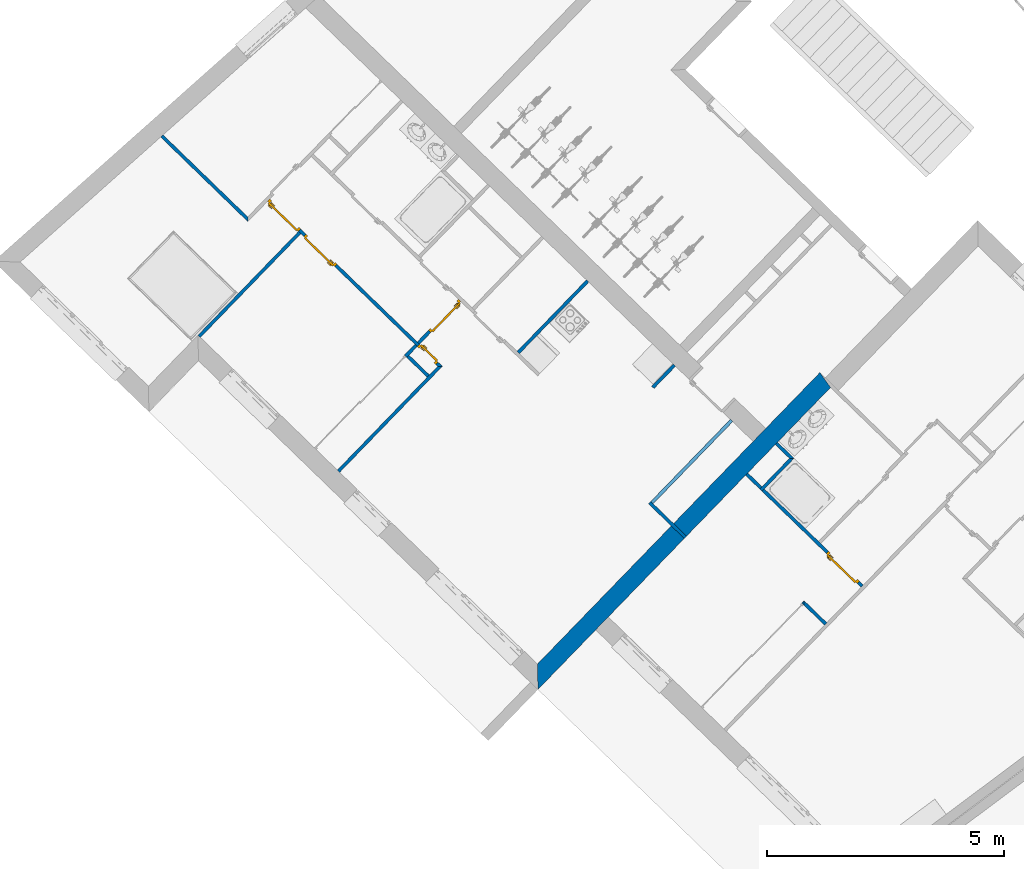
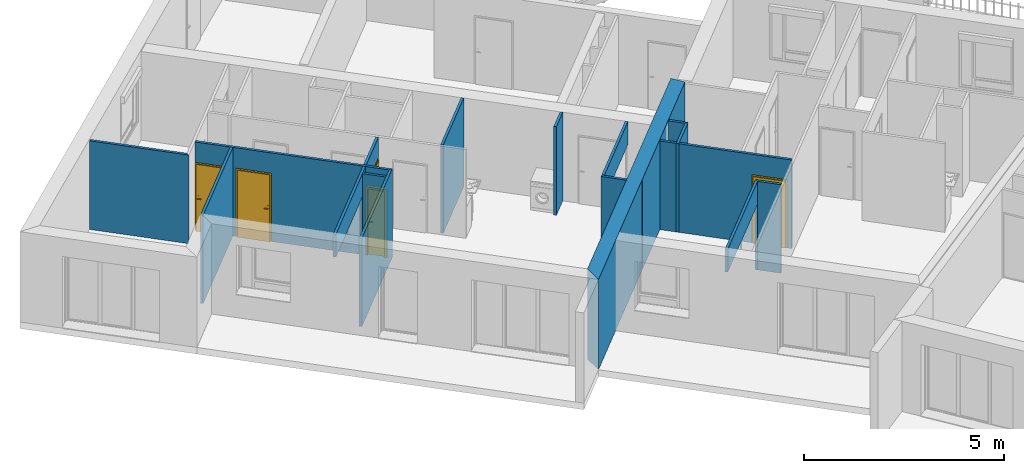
# One storey, part 18 of 195: 17 walls, 5 doors, 8 openings.
"""IFC2X3 building model written with IfcOpenShell, lengths in metres."""

import ifcopenshell
import ifcopenshell.guid

model = None  # the IFC model being written
_history = None  # IfcOwnerHistory: only IFC2X3 demands one
_inside = {}  # id of a spatial element -> (the spatial element, [elements in it])
_under = {}  # id of a project, library or spatial element -> (it, [spatial elements below it])
_declared = {}  # id of a project -> (the project, [libraries it declares])
_typed = {}  # id of a type object -> (the type object, [elements of that type])
_made_of = {}  # id of a material, layer set ... -> (it, [elements and type objects made of it])


def new_model(schema):
    """Start an empty IFC model of exactly this schema.

    Asked for "IFC4X3", IfcOpenShell would pick the latest addendum, in which some entities
    have other attributes; the version numbers below select the first issue.
    IFC2X3 requires an IfcOwnerHistory on every rooted entity: one is made here for all.
    """
    global model, _history
    if schema == "IFC4X3":
        model = ifcopenshell.file(schema_version=(4, 3, 0, 0))
    else:
        model = ifcopenshell.file(schema=schema)
    _inside.clear()
    _under.clear()
    _declared.clear()
    _typed.clear()
    _made_of.clear()
    _history = None
    if model.schema == "IFC2X3":
        org = make("IfcOrganization", Name="unknown")
        user = make(
            "IfcPersonAndOrganization",
            ThePerson=make("IfcPerson", FamilyName="unknown"),
            TheOrganization=org,
        )
        app = make(
            "IfcApplication",
            ApplicationDeveloper=org,
            Version="unknown",
            ApplicationFullName="unknown",
            ApplicationIdentifier="unknown",
        )
        _history = make(
            "IfcOwnerHistory",
            OwningUser=user,
            OwningApplication=app,
            ChangeAction="ADDED",
            CreationDate=0,
        )
    return model


def make(cls, **values):
    """One entity of the class cls with the attributes given. An attribute that is None is left unset."""
    return model.create_entity(
        cls, **{name: value for name, value in values.items() if value is not None}
    )


def entity(cls, *values):
    """Any entity or typed value of the class cls, its attributes in the order of the schema. None: left unset."""
    e = model.create_entity(cls)
    for i, value in enumerate(values):
        if value is not None:
            e[i] = value
    return e


def rooted(cls, **values):
    """An entity with a GlobalId (a new one), such as an element, a storey or a relation."""
    return make(cls, GlobalId=ifcopenshell.guid.new(), OwnerHistory=_history, **values)


def si_unit(unit_type, name, prefix=None):
    """IfcSIUnit, for example si_unit("LENGTHUNIT", "METRE", prefix="MILLI")."""
    return make("IfcSIUnit", UnitType=unit_type, Prefix=prefix, Name=name)


def converted_unit(unit_type, name, factor, base, dimensions=None, offset=None):
    """IfcConversionBasedUnit, such as the inch: factor (a typed value) times the base unit."""
    return make(
        "IfcConversionBasedUnit"
        if offset is None
        else "IfcConversionBasedUnitWithOffset",
        ConversionOffset=offset,
        Dimensions=None
        if dimensions is None
        else entity("IfcDimensionalExponents", *dimensions),
        UnitType=unit_type,
        Name=name,
        ConversionFactor=make(
            "IfcMeasureWithUnit", ValueComponent=factor, UnitComponent=base
        ),
    )


def derived_unit(unit_type, elements):
    """IfcDerivedUnit: a product of units, each with its exponent."""
    return make(
        "IfcDerivedUnit",
        Elements=[
            make("IfcDerivedUnitElement", Unit=unit, Exponent=power)
            for unit, power in elements
        ],
        UnitType=unit_type,
    )


def money_unit(currency):
    """IfcMonetaryUnit."""
    return make("IfcMonetaryUnit", Currency=currency)


def assignment(units):
    """IfcUnitAssignment: the units of a project."""
    return None if units is None else make("IfcUnitAssignment", Units=units)


def point(xyz):
    """IfcCartesianPoint."""
    return None if xyz is None else make("IfcCartesianPoint", Coordinates=xyz)


def direction(xyz):
    """IfcDirection."""
    return None if xyz is None else make("IfcDirection", DirectionRatios=xyz)


def frame(location, z_axis=None, x_axis=None):
    """IfcAxis2Placement3D, a coordinate frame: its origin and axes. An axis left out is left unset."""
    return make(
        "IfcAxis2Placement3D",
        Location=point(location),
        Axis=direction(z_axis),
        RefDirection=direction(x_axis),
    )


def frame_2d(location, x_axis=None):
    """IfcAxis2Placement2D, a coordinate frame in the plane: its origin and x axis."""
    return make(
        "IfcAxis2Placement2D", Location=point(location), RefDirection=direction(x_axis)
    )


def origin_with_axes():
    """The frame at (0, 0, 0) with the z axis (0, 0, 1) and the x axis (1, 0, 0) written out."""
    return frame((0.0, 0.0, 0.0), z_axis=(0.0, 0.0, 1.0), x_axis=(1.0, 0.0, 0.0))


def origin_2d_with_axis():
    """The frame at (0, 0) in the plane with the x axis (1, 0) written out."""
    return frame_2d((0.0, 0.0), x_axis=(1.0, 0.0))


def place(relative_to, where):
    """IfcLocalPlacement: puts the frame where relative to a parent placement (None: the world)."""
    return make(
        "IfcLocalPlacement", PlacementRelTo=relative_to, RelativePlacement=where
    )


def context(
    kind, dimensions, precision=None, world=None, true_north=None, identifier=None
):
    """IfcGeometricRepresentationContext, for example the 3D "Model" context."""
    return make(
        "IfcGeometricRepresentationContext",
        ContextIdentifier=identifier,
        ContextType=kind,
        CoordinateSpaceDimension=dimensions,
        Precision=precision,
        WorldCoordinateSystem=world,
        TrueNorth=true_north,
    )


def subcontext(parent, identifier, kind, view, scale=None):
    """IfcGeometricRepresentationSubContext, for example "Body" below "Model"."""
    return make(
        "IfcGeometricRepresentationSubContext",
        ContextIdentifier=identifier,
        ContextType=kind,
        ParentContext=parent,
        TargetScale=scale,
        TargetView=view,
    )


def project(units=None, contexts=None):
    """IfcProject with its units and contexts."""
    return rooted(
        "IfcProject",
        Name="project",
        RepresentationContexts=contexts,
        UnitsInContext=assignment(units),
    )


def spatial(cls, under=None, at=None, **own):
    """A site, building, storey or space (cls), placed at a placement, below another one or the project."""
    s = rooted(cls, ObjectPlacement=at, **own)
    if under is not None:
        _under.setdefault(under.id(), (under, []))[1].append(s)
    return s


def polyline(points):
    """IfcPolyline through the points."""
    return make("IfcPolyline", Points=[point(p) for p in points])


def profile(cls, at=None, kind="AREA", **sizes):
    """A parametric profile (cls). Its sizes go by their IFC names, for example OverallWidth=200.0."""
    return make(cls, ProfileType=kind, Position=at, **sizes)


def rectangle(**sizes):
    """IfcRectangleProfileDef."""
    return profile("IfcRectangleProfileDef", **sizes)


def outline(outer, holes=None, kind="AREA"):
    """IfcArbitraryClosedProfileDef: a profile drawn as a closed curve; with holes, ...WithVoids."""
    if holes is None:
        return make("IfcArbitraryClosedProfileDef", ProfileType=kind, OuterCurve=outer)
    return make(
        "IfcArbitraryProfileDefWithVoids",
        ProfileType=kind,
        OuterCurve=outer,
        InnerCurves=holes,
    )


def extrude(swept, where, along, depth):
    """IfcExtrudedAreaSolid: the profile swept, set in the frame where, extruded along a direction by depth."""
    return make(
        "IfcExtrudedAreaSolid",
        SweptArea=swept,
        Position=where,
        ExtrudedDirection=direction(along),
        Depth=depth,
    )


def faces_of(points, faces, orient=None, outer=None):
    """IfcFace entities. A face is a list of loops; a loop is a list of indices into points, from 0.

    orient and outer hold one flag for each loop. By default every Orientation is true, the
    first loop of a face is its IfcFaceOuterBound and the others are IfcFaceBound.
    """
    made = []
    for i, loops in enumerate(faces):
        bounds = []
        for j, loop in enumerate(loops):
            is_outer = j == 0 if outer is None else outer[i][j]
            bounds.append(
                make(
                    "IfcFaceOuterBound" if is_outer else "IfcFaceBound",
                    Bound=make("IfcPolyLoop", Polygon=[points[k] for k in loop]),
                    Orientation=True if orient is None else orient[i][j],
                )
            )
        made.append(make("IfcFace", Bounds=bounds))
    return made


def faceted_brep(points, faces, orient=None, outer=None, voids=None):
    """IfcFacetedBrep: a solid bounded by flat faces; with voids (closed shells), ...WithVoids."""
    shared = [point(p) for p in points]
    hull = make("IfcClosedShell", CfsFaces=faces_of(shared, faces, orient, outer))
    if voids is None:
        return make("IfcFacetedBrep", Outer=hull)
    return make(
        "IfcFacetedBrepWithVoids",
        Outer=hull,
        Voids=[
            make(cls, CfsFaces=faces_of(shared, fs, o, b)) for cls, fs, o, b in voids
        ],
    )


def shape(context_of_items, identifier, shape_type, items):
    """IfcShapeRepresentation: the items that make up one representation, for example the "Body"."""
    return make(
        "IfcShapeRepresentation",
        ContextOfItems=context_of_items,
        RepresentationIdentifier=identifier,
        RepresentationType=shape_type,
        Items=items,
    )


def source(mapping_origin, context_of_items, identifier, shape_type, items):
    """IfcRepresentationMap: a shape defined once, which mapped items show again and again."""
    return make(
        "IfcRepresentationMap",
        MappingOrigin=mapping_origin,
        MappedRepresentation=shape(context_of_items, identifier, shape_type, items),
    )


def transform(
    local_origin,
    x_axis=None,
    y_axis=None,
    z_axis=None,
    scale=None,
    scale2=None,
    scale3=None,
    uniform=True,
):
    """IfcCartesianTransformationOperator3D, or its non-uniform kind. x_axis, y_axis, z_axis: its Axis1, 2, 3."""
    if uniform:
        return make(
            "IfcCartesianTransformationOperator3D",
            Axis1=direction(x_axis),
            Axis2=direction(y_axis),
            LocalOrigin=point(local_origin),
            Scale=scale,
            Axis3=direction(z_axis),
        )
    return make(
        "IfcCartesianTransformationOperator3DnonUniform",
        Axis1=direction(x_axis),
        Axis2=direction(y_axis),
        LocalOrigin=point(local_origin),
        Scale=scale,
        Axis3=direction(z_axis),
        Scale2=scale2,
        Scale3=scale3,
    )


def mapped(mapping_source, mapping_target):
    """IfcMappedItem: shows the shape of a source again, moved by a transform."""
    return make(
        "IfcMappedItem", MappingSource=mapping_source, MappingTarget=mapping_target
    )


def material(Name=None, Category=None):
    """IfcMaterial."""
    return make("IfcMaterial", Name=Name, Category=Category)


def layer(
    of_material, thickness, ventilated=None, Name=None, Category=None, Priority=None
):
    """IfcMaterialLayer: one layer of a wall or slab, of a material (None: an air gap)."""
    return make(
        "IfcMaterialLayer",
        Material=of_material,
        LayerThickness=thickness,
        IsVentilated=ventilated,
        Name=Name,
        Category=Category,
        Priority=Priority,
    )


def layer_set(layers, Name=None):
    """IfcMaterialLayerSet."""
    return make("IfcMaterialLayerSet", MaterialLayers=layers, LayerSetName=Name)


def layer_usage(for_layer_set, set_direction, sense, offset, extent=None):
    """IfcMaterialLayerSetUsage: how a layer set lies in its element."""
    return make(
        "IfcMaterialLayerSetUsage",
        ForLayerSet=for_layer_set,
        LayerSetDirection=set_direction,
        DirectionSense=sense,
        OffsetFromReferenceLine=offset,
        ReferenceExtent=extent,
    )


def made_of(thing, what):
    """Note that an element or type object is made of a material, layer set ...; save() writes the relation."""
    if what is not None:
        _made_of.setdefault(what.id(), (what, []))[1].append(thing)
    return thing


def type_object(cls, material=None, **own):
    """A type object (cls), such as IfcWallType, which elements share."""
    return made_of(rooted(cls, **own), material)


def element(
    cls,
    number,
    at=None,
    inside=None,
    cuts=None,
    type_object=None,
    material=None,
    context=None,
    identifier="Body",
    shape_type=None,
    held_by="IfcProductDefinitionShape",
    body=None,
    shapes=None,
    **own,
):
    """One element of the class cls, such as IfcWall. Its Tag is "e" and its number.

    at: its placement. inside: the storey or other place that contains it. cuts: it is an
    opening in that element (IfcRelVoidsElement). A single representation is given by context,
    identifier, shape_type and body (its items); several are given by shapes. held_by: the class
    of the entity that holds the representations. save() writes the other relations.
    """
    e = rooted(cls, Tag="e%d" % number, ObjectPlacement=at, **own)
    if body is not None:
        shapes = [shape(context, identifier, shape_type, body)]
    if shapes is not None:
        e.Representation = make(held_by, Representations=shapes)
    if inside is not None:
        _inside.setdefault(inside.id(), (inside, []))[1].append(e)
    if cuts is not None:
        rooted(
            "IfcRelVoidsElement", RelatingBuildingElement=cuts, RelatedOpeningElement=e
        )
    if type_object is not None:
        _typed.setdefault(type_object.id(), (type_object, []))[1].append(e)
    return made_of(e, material)


def fill(opening, filler):
    """IfcRelFillsElement: the door or window that sits in an opening."""
    return rooted(
        "IfcRelFillsElement",
        RelatingOpeningElement=opening,
        RelatedBuildingElement=filler,
    )


def aggregate(whole, parts):
    """IfcRelAggregates: a whole, such as a stair, and the parts it consists of."""
    return rooted("IfcRelAggregates", RelatingObject=whole, RelatedObjects=parts)


def save(model, path):
    """Write the relations noted so far, then the file.

    IfcRelAggregates (storeys below a building ...), IfcRelContainedInSpatialStructure (elements
    in a storey), IfcRelDefinesByType, IfcRelAssociatesMaterial and IfcRelDeclares: one each for
    every whole, place, type object, material and project.
    """
    for whole, parts in _under.values():
        aggregate(whole, parts)
    for where, things in _inside.values():
        rooted(
            "IfcRelContainedInSpatialStructure",
            RelatedElements=things,
            RelatingStructure=where,
        )
    for kind, things in _typed.values():
        rooted("IfcRelDefinesByType", RelatedObjects=things, RelatingType=kind)
    for what, things in _made_of.values():
        rooted("IfcRelAssociatesMaterial", RelatedObjects=things, RelatingMaterial=what)
    for by, libraries in _declared.values():
        rooted("IfcRelDeclares", RelatingContext=by, RelatedDefinitions=libraries)
    model.write(path)


model = new_model("IFC2X3")

# Units and contexts
model_context = context("Model", 3, precision=1e-05, world=origin_with_axes(), true_north=direction((0.0, 1.0)))
body_context = subcontext(model_context, "Body", "Model", "MODEL_VIEW")
ifc_project = project(units=[si_unit("LENGTHUNIT", "METRE"), si_unit("AREAUNIT", "SQUARE_METRE"), si_unit("VOLUMEUNIT", "CUBIC_METRE"), converted_unit("PLANEANGLEUNIT", "DEGREE", entity("IfcPlaneAngleMeasure", 0.0174532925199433), si_unit("PLANEANGLEUNIT", "RADIAN"), dimensions=[0, 0, 0, 0, 0, 0, 0]), money_unit("CHF"), converted_unit("TIMEUNIT", "Year", entity("IfcTimeMeasure", 31557600.0), si_unit("TIMEUNIT", "SECOND"), dimensions=[0, 0, 1, 0, 0, 0, 0]), si_unit("MASSUNIT", "GRAM", prefix="KILO"), si_unit("THERMODYNAMICTEMPERATUREUNIT", "DEGREE_CELSIUS"), si_unit("LUMINOUSINTENSITYUNIT", "LUMEN"), si_unit("ENERGYUNIT", "JOULE", prefix="MEGA"), derived_unit("THERMALCONDUCTANCEUNIT", [(si_unit("POWERUNIT", "WATT"), 1), (si_unit("LENGTHUNIT", "METRE"), -1), (si_unit("THERMODYNAMICTEMPERATUREUNIT", "KELVIN"), -1)]), derived_unit("SPECIFICHEATCAPACITYUNIT", [(si_unit("ENERGYUNIT", "JOULE"), 1), (si_unit("MASSUNIT", "GRAM", prefix="KILO"), -1), (si_unit("THERMODYNAMICTEMPERATUREUNIT", "KELVIN"), -1)]), derived_unit("MASSDENSITYUNIT", [(si_unit("MASSUNIT", "GRAM", prefix="KILO"), 1), (si_unit("VOLUMEUNIT", "CUBIC_METRE"), -1)])], contexts=[model_context])

# Site, building, storey
site_placement = place(None, origin_with_axes())
site = spatial("IfcSite", under=ifc_project, at=site_placement, Name="Site", CompositionType="ELEMENT")
building_placement = place(site_placement, origin_with_axes())
building = spatial("IfcBuilding", under=site, at=building_placement, Name="Bâtiment", CompositionType="ELEMENT")
storey_placement = place(building_placement, origin_with_axes())
storey = spatial("IfcBuildingStorey", under=building, at=storey_placement, Name="rdc", CompositionType="ELEMENT", Elevation=0.0)

# Walls
ifc_material_1 = material(Name="Hachure solide 268963992")
ifc_layer_1 = layer(ifc_material_1, 0.07, ventilated="UNKNOWN")
ifc_layer_set_1 = layer_set([ifc_layer_1], Name="Cloison 70 0826278243")
ifc_layer_usage_1 = layer_usage(ifc_layer_set_1, "AXIS2", "NEGATIVE", 0.0)
wall_type_1 = type_object("IfcWallType", Name="Cloison 70 0826278243 70", PredefinedType="NOTDEFINED")
wall_1_placement = place(storey_placement, frame((9525.8076536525, -1068.257932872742, 57.7), z_axis=(0.0, 0.0, 1.0), x_axis=(-0.7181763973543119, 0.6958610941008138, 0.0)))
element("IfcWallStandardCase", 1, at=wall_1_placement, inside=storey, type_object=wall_type_1, material=ifc_layer_usage_1, Name="Mur-149", context=body_context, shape_type="SweptSolid", body=[
    extrude(outline(polyline([(0.0, -0.06999999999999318), (1.049638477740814, -0.07000000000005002), (1.049638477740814, 0.0), (0.0, 0.0), (0.0, -0.06999999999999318)])), origin_with_axes(), (0.0, 0.0, 1.0), 2.7),
])
ifc_layer_usage_2 = layer_usage(ifc_layer_set_1, "AXIS2", "NEGATIVE", 0.0)
wall_2_placement = place(storey_placement, frame((9514.553407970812, -1059.488692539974, 57.7), z_axis=(0.0, 0.0, 1.0), x_axis=(0.7181763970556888, -0.6958610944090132, 0.0)))
element("IfcWallStandardCase", 2, at=wall_2_placement, inside=storey, type_object=wall_type_1, material=ifc_layer_usage_2, Name="Mur-149", context=body_context, shape_type="SweptSolid", body=[
    extrude(outline(polyline([(0.3758528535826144, -0.06999999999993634), (2.936374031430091, -0.06999999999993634), (2.866374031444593, 0.0), (0.3810431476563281, 0.0), (0.3758528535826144, -0.06999999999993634)])), origin_with_axes(), (0.0, 0.0, 1.0), 2.7),
])

# Wall, opening
ifc_layer_usage_3 = layer_usage(ifc_layer_set_1, "AXIS2", "NEGATIVE", 0.0)
wall_3_placement = place(storey_placement, frame((9527.093406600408, -1065.523140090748, 57.7), z_axis=(0.0, 0.0, 1.0), x_axis=(-0.6958610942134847, -0.7181763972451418, 0.0)))
wall_3 = element("IfcWallStandardCase", 3, at=wall_3_placement, inside=storey, type_object=wall_type_1, material=ifc_layer_usage_3, Name="Mur-149", context=body_context, shape_type="SweptSolid", body=[
    extrude(outline(polyline([(0.3799999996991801, -0.06999999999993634), (2.788769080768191, -0.06999999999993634), (2.788769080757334, 0.0), (0.3799999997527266, 0.0), (0.3799999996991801, -0.06999999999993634)])), origin_with_axes(), (0.0, 0.0, 1.0), 2.7),
])
opening_1_placement = place(wall_3_placement, frame((1.584384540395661, 0.0, 0.0), z_axis=(0.0, 0.0, 1.0), x_axis=(1.0, 0.0, 0.0)))
element("IfcOpeningElement", 4, at=opening_1_placement, cuts=wall_3, Name="Por-338", context=body_context, shape_type="SweptSolid", body=[
    extrude(rectangle(XDim=2.408769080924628, YDim=2.0, at=origin_2d_with_axis()), frame((0.0, -0.07000000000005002, 1.0), z_axis=(0.0, 1.0, 0.0), x_axis=(1.0, 0.0, 0.0)), (0.0, 0.0, -1.0), 0.07),
    extrude(rectangle(XDim=2.408769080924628, YDim=2.0, at=origin_2d_with_axis()), frame((0.0, -0.07000000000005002, 1.0), z_axis=(0.0, -1.0, 0.0), x_axis=(1.0, 0.0, 0.0)), (0.0, 0.0, -1.0), 0.07),
])

# Walls
ifc_layer_usage_4 = layer_usage(ifc_layer_set_1, "AXIS2", "NEGATIVE", 0.0)
wall_4_placement = place(storey_placement, frame((9525.889556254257, -1064.356695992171, 57.7), z_axis=(0.0, 0.0, 1.0), x_axis=(-0.6958610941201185, -0.7181763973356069, 0.0)))
element("IfcWallStandardCase", 5, at=wall_4_placement, inside=storey, type_object=wall_type_1, material=ifc_layer_usage_4, Name="Mur-149", context=body_context, shape_type="SweptSolid", body=[
    extrude(outline(polyline([(0.3799999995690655, -0.07000000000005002), (1.032137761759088, -0.07000000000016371), (1.032137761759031, 0.0), (0.3799999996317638, 0.0), (0.3799999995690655, -0.07000000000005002)])), origin_with_axes(), (0.0, 0.0, 1.0), 2.7),
])
ifc_layer_usage_5 = layer_usage(ifc_layer_set_1, "AXIS2", "POSITIVE", 0.0)
wall_5_placement = place(storey_placement, frame((9520.662566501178, -1064.581585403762, 57.7), z_axis=(0.0, 0.0, 1.0), x_axis=(-0.6958610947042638, -0.7181763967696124, 0.0)))
element("IfcWallStandardCase", 6, at=wall_5_placement, inside=storey, type_object=wall_type_1, material=ifc_layer_usage_5, Name="Mur-149", context=body_context, shape_type="SweptSolid", body=[
    extrude(outline(polyline([(0.0699999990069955, 0.0), (3.111145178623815, 0.0), (3.111145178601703, 0.07000000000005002), (-1.013859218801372e-09, 0.06999999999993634), (0.0699999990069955, 0.0)])), origin_with_axes(), (0.0, 0.0, 1.0), 2.7),
])

# Wall, openings, doors
ifc_layer_usage_6 = layer_usage(ifc_layer_set_1, "AXIS2", "NEGATIVE", 0.0)
wall_6_placement = place(storey_placement, frame((9517.075257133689, -1061.105741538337, 57.7), z_axis=(0.0, 0.0, 1.0), x_axis=(0.7181763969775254, -0.6958610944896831, 0.0)))
wall_6 = element("IfcWallStandardCase", 7, at=wall_6_placement, inside=storey, type_object=wall_type_1, material=ifc_layer_usage_6, Name="Mur-149", context=body_context, shape_type="SweptSolid", body=[
    extrude(outline(polyline([(1.336957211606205e-10, -0.06999999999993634), (4.995025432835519, -0.06999999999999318), (5.065025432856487, 0.0), (1.402895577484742e-10, 0.0), (1.336957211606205e-10, -0.06999999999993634)])), origin_with_axes(), (0.0, 0.0, 1.0), 2.7),
])
opening_2_placement = place(wall_6_placement, frame((1.518881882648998, 0.0, 0.0), z_axis=(0.0, 0.0, 1.0), x_axis=(1.0, 0.0, 0.0)))
opening_2 = element("IfcOpeningElement", 8, at=opening_2_placement, cuts=wall_6, Name="Por-302", context=body_context, shape_type="SweptSolid", body=[
    extrude(rectangle(XDim=0.9099999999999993, YDim=2.079999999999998, at=origin_2d_with_axis()), frame((0.0, 0.06999999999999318, 1.039999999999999), z_axis=(0.0, -1.0, 0.0), x_axis=(-1.0, 0.0, 0.0)), (0.0, 0.0, 1.0), 0.14),
])
opening_3_placement = place(wall_6_placement, frame((4.667118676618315, 0.0, 0.0), z_axis=(0.0, 0.0, 1.0), x_axis=(1.0, 0.0, 0.0)))
opening_3 = element("IfcOpeningElement", 9, at=opening_3_placement, cuts=wall_6, Name="Por-320", context=body_context, shape_type="SweptSolid", body=[
    extrude(rectangle(XDim=0.547405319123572, YDim=2.079999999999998, at=origin_2d_with_axis()), frame((-2.722686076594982e-09, -0.06999999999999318, 1.039999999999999), z_axis=(0.0, 1.0, 0.0), x_axis=(1.0, 0.0, 0.0)), (0.0, 0.0, 1.0), 0.14),
])
opening_4_placement = place(wall_6_placement, frame((0.4550000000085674, 0.0, 0.0), z_axis=(0.0, 0.0, 1.0), x_axis=(1.0, 0.0, 0.0)))
opening_4 = element("IfcOpeningElement", 10, at=opening_4_placement, cuts=wall_6, Name="Por-301", context=body_context, shape_type="SweptSolid", body=[
    extrude(rectangle(XDim=0.9099999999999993, YDim=2.079999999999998, at=origin_2d_with_axis()), frame((0.0, 0.06999999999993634, 1.039999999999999), z_axis=(0.0, 1.0, 0.0), x_axis=(1.0, 0.0, 0.0)), (0.0, 0.0, -1.0), 0.14),
])
door_style = type_object("IfcDoorStyle", Name="Porte_1v", ConstructionType="NOTDEFINED", OperationType="NOTDEFINED", ParameterTakesPrecedence=False, Sizeable=False)
shared_shape_1 = source(origin_with_axes(), body_context, "Body", "Brep", [
    faceted_brep([(0.455, 0.0, 0.0), (0.415, 0.0, 0.0), (0.415, 0.0, 2.04), (-0.415, 0.0, 2.04), (-0.415, 0.0, 0.0), (-0.455, 0.0, 0.0), (-0.455, 0.0, 2.08), (0.455, 0.0, 2.08), (0.455, -0.07, 0.0), (0.4, -0.07, 0.0), (0.4, -0.015, 0.0), (0.415, -0.015, 0.0), (0.415, -0.015, 2.04), (-0.415, -0.015, 2.04), (-0.415, -0.015, 0.0), (-0.4, -0.015, 0.0), (-0.4, -0.07, 0.0), (-0.455, -0.07, 0.0), (-0.455, -0.07, 2.08), (0.455, -0.07, 2.08), (-0.4, -0.07, 2.025), (0.4, -0.07, 2.025), (0.4, -0.015, 2.025), (-0.4, -0.015, 2.025)], [[[0, 1, 2, 3, 4, 5, 6, 7]], [[0, 8, 9, 10, 11, 1]], [[1, 11, 12, 2]], [[2, 12, 13, 3]], [[3, 13, 14, 4]], [[5, 4, 14, 15, 16, 17]], [[18, 6, 5, 17]], [[19, 7, 6, 18]], [[8, 0, 7, 19]], [[9, 8, 19, 18, 17, 16, 20, 21]], [[10, 9, 21, 22]], [[11, 10, 22, 23, 15, 14, 13, 12]], [[23, 20, 16, 15]], [[22, 21, 20, 23]]]),
    faceted_brep([(-0.35, -0.015, 0.9), (-0.39, -0.015, 0.9), (-0.39, -0.015, 1.1), (-0.35, -0.015, 1.1), (-0.35, -0.025, 0.9), (-0.39, -0.025, 0.9), (-0.39, -0.025, 1.1), (-0.35, -0.025, 1.1)], [[[0, 1, 2, 3]], [[1, 0, 4, 5]], [[2, 1, 5, 6]], [[3, 2, 6, 7]], [[0, 3, 7, 4]], [[5, 4, 7, 6]]]),
    faceted_brep([(-0.28, -0.025, 1.0), (-0.38, -0.025, 1.0), (-0.38, -0.025, 1.02), (-0.28, -0.025, 1.02), (-0.28, -0.045, 1.0), (-0.38, -0.045, 1.0), (-0.38, -0.045, 1.02), (-0.28, -0.045, 1.02)], [[[0, 1, 2, 3]], [[1, 0, 4, 5]], [[2, 1, 5, 6]], [[3, 2, 6, 7]], [[0, 3, 7, 4]], [[5, 4, 7, 6]]]),
    faceted_brep([(-0.35, 0.035, 0.9), (-0.39, 0.035, 0.9), (-0.39, 0.035, 1.1), (-0.35, 0.035, 1.1), (-0.35, 0.025, 0.9), (-0.39, 0.025, 0.9), (-0.39, 0.025, 1.1), (-0.35, 0.025, 1.1)], [[[0, 1, 2, 3]], [[1, 0, 4, 5]], [[2, 1, 5, 6]], [[3, 2, 6, 7]], [[0, 3, 7, 4]], [[5, 4, 7, 6]]]),
    faceted_brep([(-0.28, 0.05500000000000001, 1.0), (-0.38, 0.05500000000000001, 1.0), (-0.38, 0.05500000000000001, 1.02), (-0.28, 0.05500000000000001, 1.02), (-0.28, 0.035, 1.0), (-0.38, 0.035, 1.0), (-0.38, 0.035, 1.02), (-0.28, 0.035, 1.02)], [[[0, 1, 2, 3]], [[1, 0, 4, 5]], [[2, 1, 5, 6]], [[3, 2, 6, 7]], [[0, 3, 7, 4]], [[5, 4, 7, 6]]]),
    faceted_brep([(-0.415, 0.025, 0.0), (0.415, 0.025, 0.0), (0.415, -0.015, 0.0), (-0.415, -0.015, 0.0), (-0.415, 0.025, 2.04), (0.415, 0.025, 2.04), (0.415, -0.015, 2.04), (-0.415, -0.015, 2.04)], [[[0, 1, 2, 3]], [[0, 4, 5, 1]], [[1, 5, 6, 2]], [[3, 2, 6, 7]], [[4, 0, 3, 7]], [[5, 4, 7, 6]]]),
])
door_1_placement = place(opening_2_placement, frame((0.4150000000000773, 0.0, 0.0), z_axis=(0.0, 0.0, 1.0), x_axis=(-1.0, 0.0, 0.0)))
door_1 = element("IfcDoor", 11, at=door_1_placement, inside=storey, type_object=door_style, Name="Por-302", OverallHeight=2.04, OverallWidth=0.83, context=body_context, shape_type="MappedRepresentation", body=[
    mapped(shared_shape_1, transform((0.4150000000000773, 0.07000000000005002, 0.0))),
])
fill(opening_2, door_1)
shared_shape_2 = source(origin_with_axes(), body_context, "Body", "Brep", [
    faceted_brep([(-0.455, 0.0, 0.0), (-0.455, 0.0, 2.08), (0.455, 0.0, 2.08), (0.455, 0.0, 0.0), (0.415, 0.0, 0.0), (0.415, 0.0, 2.04), (-0.415, 0.0, 2.04), (-0.415, 0.0, 0.0), (-0.455, -0.07, 0.0), (-0.455, -0.07, 2.08), (0.455, -0.07, 2.08), (0.455, -0.07, 0.0), (0.4, -0.07, 0.0), (0.4, -0.015, 0.0), (0.415, -0.015, 0.0), (0.415, -0.015, 2.04), (-0.415, -0.015, 2.04), (-0.415, -0.015, 0.0), (-0.4, -0.015, 0.0), (-0.4, -0.07, 0.0), (-0.4, -0.07, 2.025), (0.4, -0.07, 2.025), (0.4, -0.015, 2.025), (-0.4, -0.015, 2.025)], [[[0, 1, 2, 3, 4, 5, 6, 7]], [[8, 9, 1, 0]], [[9, 10, 2, 1]], [[10, 11, 3, 2]], [[3, 11, 12, 13, 14, 4]], [[5, 4, 14, 15]], [[6, 5, 15, 16]], [[7, 6, 16, 17]], [[0, 7, 17, 18, 19, 8]], [[19, 20, 21, 12, 11, 10, 9, 8]], [[22, 13, 12, 21]], [[17, 16, 15, 14, 13, 22, 23, 18]], [[18, 23, 20, 19]], [[23, 22, 21, 20]]]),
    faceted_brep([(0.35, -0.015, 0.9), (0.35, -0.015, 1.1), (0.39, -0.015, 1.1), (0.39, -0.015, 0.9), (0.35, -0.025, 0.9), (0.35, -0.025, 1.1), (0.39, -0.025, 1.1), (0.39, -0.025, 0.9)], [[[0, 1, 2, 3]], [[0, 4, 5, 1]], [[1, 5, 6, 2]], [[2, 6, 7, 3]], [[3, 7, 4, 0]], [[7, 6, 5, 4]]]),
    faceted_brep([(0.28, -0.025, 1.0), (0.28, -0.025, 1.02), (0.38, -0.025, 1.02), (0.38, -0.025, 1.0), (0.28, -0.045, 1.0), (0.28, -0.045, 1.02), (0.38, -0.045, 1.02), (0.38, -0.045, 1.0)], [[[0, 1, 2, 3]], [[0, 4, 5, 1]], [[1, 5, 6, 2]], [[2, 6, 7, 3]], [[3, 7, 4, 0]], [[7, 6, 5, 4]]]),
    faceted_brep([(0.35, 0.035, 0.9), (0.35, 0.035, 1.1), (0.39, 0.035, 1.1), (0.39, 0.035, 0.9), (0.35, 0.025, 0.9), (0.35, 0.025, 1.1), (0.39, 0.025, 1.1), (0.39, 0.025, 0.9)], [[[0, 1, 2, 3]], [[0, 4, 5, 1]], [[1, 5, 6, 2]], [[2, 6, 7, 3]], [[3, 7, 4, 0]], [[7, 6, 5, 4]]]),
    faceted_brep([(0.28, 0.05500000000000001, 1.0), (0.28, 0.05500000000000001, 1.02), (0.38, 0.05500000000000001, 1.02), (0.38, 0.05500000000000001, 1.0), (0.28, 0.035, 1.0), (0.28, 0.035, 1.02), (0.38, 0.035, 1.02), (0.38, 0.035, 1.0)], [[[0, 1, 2, 3]], [[0, 4, 5, 1]], [[1, 5, 6, 2]], [[2, 6, 7, 3]], [[3, 7, 4, 0]], [[7, 6, 5, 4]]]),
    faceted_brep([(0.415, 0.025, 0.0), (0.415, -0.015, 0.0), (-0.415, -0.015, 0.0), (-0.415, 0.025, 0.0), (0.415, 0.025, 2.04), (0.415, -0.015, 2.04), (-0.415, -0.015, 2.04), (-0.415, 0.025, 2.04)], [[[0, 1, 2, 3]], [[4, 5, 1, 0]], [[1, 5, 6, 2]], [[3, 2, 6, 7]], [[0, 3, 7, 4]], [[7, 6, 5, 4]]]),
])
door_2_placement = place(opening_4_placement, frame((0.4149999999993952, 0.0, 0.0), z_axis=(0.0, 0.0, 1.0), x_axis=(-1.0, 0.0, 0.0)))
door_2 = element("IfcDoor", 12, at=door_2_placement, inside=storey, type_object=door_style, Name="Por-301", OverallHeight=2.04, OverallWidth=0.83, context=body_context, shape_type="MappedRepresentation", body=[
    mapped(shared_shape_2, transform((0.4150000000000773, 0.07000000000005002, 0.0))),
])
fill(opening_4, door_2)
shared_shape_3 = source(origin_with_axes(), body_context, "Body", "Brep", [
    faceted_brep([(0.2737026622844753, 0.0, 0.0), (0.2337026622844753, 0.0, 0.0), (0.2337026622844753, 0.0, 2.04), (-0.2337026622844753, 0.0, 2.04), (-0.2337026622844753, 0.0, 0.0), (-0.2737026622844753, 0.0, 0.0), (-0.2737026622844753, 0.0, 2.08), (0.2737026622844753, 0.0, 2.08), (0.2737026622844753, -0.07, 0.0), (0.2187026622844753, -0.07, 0.0), (0.2187026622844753, -0.015, 0.0), (0.2337026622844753, -0.015, 0.0), (0.2337026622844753, -0.015, 2.04), (-0.2337026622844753, -0.015, 2.04), (-0.2337026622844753, -0.015, 0.0), (-0.2187026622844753, -0.015, 0.0), (-0.2187026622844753, -0.07, 0.0), (-0.2737026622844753, -0.07, 0.0), (-0.2737026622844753, -0.07, 2.08), (0.2737026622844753, -0.07, 2.08), (-0.2187026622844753, -0.07, 2.025), (0.2187026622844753, -0.07, 2.025), (0.2187026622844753, -0.015, 2.025), (-0.2187026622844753, -0.015, 2.025)], [[[0, 1, 2, 3, 4, 5, 6, 7]], [[0, 8, 9, 10, 11, 1]], [[1, 11, 12, 2]], [[2, 12, 13, 3]], [[3, 13, 14, 4]], [[5, 4, 14, 15, 16, 17]], [[18, 6, 5, 17]], [[19, 7, 6, 18]], [[8, 0, 7, 19]], [[9, 8, 19, 18, 17, 16, 20, 21]], [[10, 9, 21, 22]], [[11, 10, 22, 23, 15, 14, 13, 12]], [[23, 20, 16, 15]], [[22, 21, 20, 23]]]),
    faceted_brep([(-0.1687026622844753, -0.015, 0.9), (-0.2087026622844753, -0.015, 0.9), (-0.2087026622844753, -0.015, 1.1), (-0.1687026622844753, -0.015, 1.1), (-0.1687026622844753, -0.025, 0.9), (-0.2087026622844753, -0.025, 0.9), (-0.2087026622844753, -0.025, 1.1), (-0.1687026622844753, -0.025, 1.1)], [[[0, 1, 2, 3]], [[1, 0, 4, 5]], [[2, 1, 5, 6]], [[3, 2, 6, 7]], [[0, 3, 7, 4]], [[5, 4, 7, 6]]]),
    faceted_brep([(-0.0987026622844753, -0.025, 1.0), (-0.1987026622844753, -0.025, 1.0), (-0.1987026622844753, -0.025, 1.02), (-0.0987026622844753, -0.025, 1.02), (-0.0987026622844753, -0.045, 1.0), (-0.1987026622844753, -0.045, 1.0), (-0.1987026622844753, -0.045, 1.02), (-0.0987026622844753, -0.045, 1.02)], [[[0, 1, 2, 3]], [[1, 0, 4, 5]], [[2, 1, 5, 6]], [[3, 2, 6, 7]], [[0, 3, 7, 4]], [[5, 4, 7, 6]]]),
    faceted_brep([(-0.1687026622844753, 0.035, 0.9), (-0.2087026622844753, 0.035, 0.9), (-0.2087026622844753, 0.035, 1.1), (-0.1687026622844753, 0.035, 1.1), (-0.1687026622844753, 0.025, 0.9), (-0.2087026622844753, 0.025, 0.9), (-0.2087026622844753, 0.025, 1.1), (-0.1687026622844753, 0.025, 1.1)], [[[0, 1, 2, 3]], [[1, 0, 4, 5]], [[2, 1, 5, 6]], [[3, 2, 6, 7]], [[0, 3, 7, 4]], [[5, 4, 7, 6]]]),
    faceted_brep([(-0.0987026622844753, 0.05500000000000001, 1.0), (-0.1987026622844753, 0.05500000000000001, 1.0), (-0.1987026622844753, 0.05500000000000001, 1.02), (-0.0987026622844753, 0.05500000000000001, 1.02), (-0.0987026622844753, 0.035, 1.0), (-0.1987026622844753, 0.035, 1.0), (-0.1987026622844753, 0.035, 1.02), (-0.0987026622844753, 0.035, 1.02)], [[[0, 1, 2, 3]], [[1, 0, 4, 5]], [[2, 1, 5, 6]], [[3, 2, 6, 7]], [[0, 3, 7, 4]], [[5, 4, 7, 6]]]),
    faceted_brep([(-0.2337026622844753, 0.025, 0.0), (0.2337026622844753, 0.025, 0.0), (0.2337026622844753, -0.015, 0.0), (-0.2337026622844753, -0.015, 0.0), (-0.2337026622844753, 0.025, 2.04), (0.2337026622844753, 0.025, 2.04), (0.2337026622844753, -0.015, 2.04), (-0.2337026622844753, -0.015, 2.04)], [[[0, 1, 2, 3]], [[0, 4, 5, 1]], [[1, 5, 6, 2]], [[3, 2, 6, 7]], [[4, 0, 3, 7]], [[5, 4, 7, 6]]]),
])
door_3_placement = place(opening_3_placement, frame((-0.2337026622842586, 0.0, 0.0), z_axis=(0.0, 0.0, 1.0), x_axis=(1.0, 0.0, 0.0)))
door_3 = element("IfcDoor", 13, at=door_3_placement, inside=storey, type_object=door_style, Name="Por-320", OverallHeight=2.04, OverallWidth=0.467405, context=body_context, shape_type="MappedRepresentation", body=[
    mapped(shared_shape_3, transform((0.2337026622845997, 0.0, 0.0))),
])
fill(opening_3, door_3)

# Wall
ifc_layer_usage_7 = layer_usage(ifc_layer_set_1, "AXIS2", "POSITIVE", 0.0)
wall_7_placement = place(storey_placement, frame((9517.72879765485, -1061.738975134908, 57.7), z_axis=(0.0, 0.0, 1.0), x_axis=(-0.6958610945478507, -0.7181763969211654, 0.0)))
element("IfcWallStandardCase", 14, at=wall_7_placement, inside=storey, type_object=wall_type_1, material=ifc_layer_usage_7, Name="Mur-149", context=body_context, shape_type="SweptSolid", body=[
    extrude(outline(polyline([(0.06999999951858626, 0.0), (3.111145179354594, 0.0), (3.11114517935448, 0.06999999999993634), (0.06999999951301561, 0.06999999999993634), (0.06999999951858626, 0.0)])), origin_with_axes(), (0.0, 0.0, 1.0), 2.7),
])

# Wall, opening, door
ifc_layer_usage_8 = layer_usage(ifc_layer_set_1, "AXIS2", "NEGATIVE", 0.0)
wall_8_placement = place(storey_placement, frame((9521.150197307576, -1063.216075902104, 57.7), z_axis=(0.0, 0.0, 1.0), x_axis=(-0.6958610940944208, -0.7181763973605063, 0.0)))
wall_8 = element("IfcWallStandardCase", 15, at=wall_8_placement, inside=storey, type_object=wall_type_1, material=ifc_layer_usage_8, Name="Mur-149", context=body_context, shape_type="SweptSolid", body=[
    extrude(outline(polyline([(0.06999999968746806, -0.07000000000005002), (1.319999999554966, -0.06999999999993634), (1.319999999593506, 0.0), (0.06999999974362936, 0.0), (0.06999999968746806, -0.07000000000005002)])), origin_with_axes(), (0.0, 0.0, 1.0), 2.7),
])
opening_5_placement = place(wall_8_placement, frame((0.5236359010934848, 0.0, 0.0), z_axis=(0.0, 0.0, 1.0), x_axis=(1.0, 0.0, 0.0)))
opening_5 = element("IfcOpeningElement", 16, at=opening_5_placement, cuts=wall_8, Name="Por-299", context=body_context, shape_type="SweptSolid", body=[
    extrude(rectangle(XDim=0.9099999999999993, YDim=2.079999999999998, at=origin_2d_with_axis()), frame((0.0, -0.06999999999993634, 1.039999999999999), z_axis=(0.0, 1.0, 0.0), x_axis=(1.0, 0.0, 0.0)), (0.0, 0.0, 1.0), 0.14),
])
door_4_placement = place(opening_5_placement, frame((-0.4149999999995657, 0.0, 0.0), z_axis=(0.0, 0.0, 1.0), x_axis=(1.0, 0.0, 0.0)))
door_4 = element("IfcDoor", 17, at=door_4_placement, inside=storey, type_object=door_style, Name="Por-299", OverallHeight=2.04, OverallWidth=0.83, context=body_context, shape_type="MappedRepresentation", body=[
    mapped(shared_shape_1, transform((0.4150000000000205, 0.0, 0.0))),
])
fill(opening_5, door_4)

# Wall, opening
ifc_layer_usage_9 = layer_usage(ifc_layer_set_1, "AXIS2", "POSITIVE", 0.0)
wall_9_placement = place(storey_placement, frame((9520.181388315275, -1064.115358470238, 57.7), z_axis=(0.0, 0.0, 1.0), x_axis=(-0.6958610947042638, -0.7181763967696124, 0.0)))
wall_9 = element("IfcWallStandardCase", 18, at=wall_9_placement, inside=storey, type_object=wall_type_1, material=ifc_layer_usage_9, Name="Mur-149", context=body_context, shape_type="SweptSolid", body=[
    extrude(outline(polyline([(0.06999999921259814, 0.0), (3.111145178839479, 0.0), (3.111145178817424, 0.06999999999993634), (0.06999999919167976, 0.07000000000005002), (0.06999999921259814, 0.0)])), origin_with_axes(), (0.0, 0.0, 1.0), 2.7),
])
opening_6_placement = place(wall_9_placement, frame((1.75057258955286, 0.0, 0.0), z_axis=(0.0, 0.0, 1.0), x_axis=(1.0, 0.0, 0.0)))
element("IfcOpeningElement", 19, at=opening_6_placement, cuts=wall_9, Name="Por-337", context=body_context, shape_type="SweptSolid", body=[
    extrude(rectangle(XDim=2.721145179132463, YDim=2.0, at=origin_2d_with_axis()), frame((0.0, 0.0, 1.0), z_axis=(0.0, 1.0, 0.0), x_axis=(1.0, 0.0, 0.0)), (0.0, 0.0, -1.0), 0.07),
    extrude(rectangle(XDim=2.721145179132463, YDim=2.0, at=origin_2d_with_axis()), frame((0.0, 0.0, 1.0), z_axis=(0.0, -1.0, 0.0), x_axis=(1.0, 0.0, 0.0)), (0.0, 0.0, -1.0), 0.07),
])

# Wall
ifc_layer_usage_10 = layer_usage(ifc_layer_set_1, "AXIS2", "POSITIVE", 0.0)
wall_10_placement = place(storey_placement, frame((9528.811143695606, -1070.03194576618, 57.7), z_axis=(0.0, 0.0, 1.0), x_axis=(-0.7181763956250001, 0.6958610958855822, 0.0)))
element("IfcWallStandardCase", 20, at=wall_10_placement, inside=storey, type_object=wall_type_1, material=ifc_layer_usage_10, Name="Mur-149", context=body_context, shape_type="SweptSolid", body=[
    extrude(outline(polyline([(0.0, 0.0), (0.6700000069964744, 0.0), (0.6000000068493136, 0.06999999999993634), (0.0, 0.07000000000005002), (0.0, 0.0)])), origin_with_axes(), (0.0, 0.0, 1.0), 2.7),
])

# Wall, opening, door
ifc_layer_usage_11 = layer_usage(ifc_layer_set_1, "AXIS2", "POSITIVE", 0.0)
wall_11_placement = place(storey_placement, frame((9527.097522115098, -1066.925771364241, 57.7), z_axis=(0.0, 0.0, 1.0), x_axis=(0.718176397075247, -0.6958610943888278, 0.0)))
wall_11 = element("IfcWallStandardCase", 21, at=wall_11_placement, inside=storey, type_object=wall_type_1, material=ifc_layer_usage_11, Name="Mur-149", context=body_context, shape_type="SweptSolid", body=[
    extrude(outline(polyline([(-1.222133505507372e-10, 0.0), (3.392148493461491, 0.0), (3.392148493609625, 0.07000000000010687), (-1.112994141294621e-10, 0.07000000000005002), (-1.222133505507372e-10, 0.0)])), origin_with_axes(), (0.0, 0.0, 1.0), 2.7),
])
opening_7_placement = place(wall_11_placement, frame((2.821361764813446, 0.0, 0.0), z_axis=(0.0, 0.0, 1.0), x_axis=(1.0, 0.0, 0.0)))
opening_7 = element("IfcOpeningElement", 22, at=opening_7_placement, cuts=wall_11, Name="Por-313", context=body_context, shape_type="SweptSolid", body=[
    extrude(rectangle(XDim=0.9099999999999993, YDim=2.079999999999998, at=origin_2d_with_axis()), frame((0.0, 0.06999999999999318, 1.039999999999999), z_axis=(0.0, 1.0, 0.0), x_axis=(1.0, 0.0, 0.0)), (0.0, 0.0, -1.0), 0.14),
])
door_5_placement = place(opening_7_placement, frame((0.4149999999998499, 0.0, 0.0), z_axis=(0.0, 0.0, 1.0), x_axis=(-1.0, 0.0, 0.0)))
door_5 = element("IfcDoor", 23, at=door_5_placement, inside=storey, type_object=door_style, Name="Por-313", OverallHeight=2.04, OverallWidth=0.83, context=body_context, shape_type="MappedRepresentation", body=[
    mapped(shared_shape_2, transform((0.415000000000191, 0.0, 0.0))),
])
fill(opening_7, door_5)

# Wall
ifc_layer_usage_12 = layer_usage(ifc_layer_set_1, "AXIS2", "POSITIVE", 0.0)
wall_12_placement = place(storey_placement, frame((9528.023286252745, -1066.569595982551, 57.7), z_axis=(0.0, 0.0, 1.0), x_axis=(-0.6958610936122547, -0.7181763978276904, 0.0)))
element("IfcWallStandardCase", 24, at=wall_12_placement, inside=storey, type_object=wall_type_1, material=ifc_layer_usage_12, Name="Mur-149", context=body_context, shape_type="SweptSolid", body=[
    extrude(outline(polyline([(0.0, 0.0), (0.9000166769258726, 0.0), (0.9000166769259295, 0.06999999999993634), (-0.06999999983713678, 0.06999999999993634), (0.0, 0.0)])), origin_with_axes(), (0.0, 0.0, 1.0), 2.7),
])

# Wall, opening
ifc_layer_usage_13 = layer_usage(ifc_layer_set_1, "AXIS2", "POSITIVE", 0.0)
wall_13_placement = place(storey_placement, frame((9528.329965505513, -1069.565718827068, 57.7), z_axis=(0.0, 0.0, 1.0), x_axis=(-0.6958610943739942, -0.7181763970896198, 0.0)))
wall_13 = element("IfcWallStandardCase", 25, at=wall_13_placement, inside=storey, type_object=wall_type_1, material=ifc_layer_usage_13, Name="Mur-149", context=body_context, shape_type="SweptSolid", body=[
    extrude(outline(polyline([(0.0, 0.0), (3.116977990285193, 0.0), (3.116977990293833, 0.06999999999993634), (0.07000000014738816, 0.07000000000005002), (0.0, 0.0)])), origin_with_axes(), (0.0, 0.0, 1.0), 2.7),
])
opening_8_placement = place(wall_13_placement, frame((1.593488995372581, 0.0, 0.0), z_axis=(0.0, 0.0, 1.0), x_axis=(1.0, 0.0, 0.0)))
element("IfcOpeningElement", 26, at=opening_8_placement, cuts=wall_13, Name="Por-341", context=body_context, shape_type="SweptSolid", body=[
    extrude(rectangle(XDim=3.046977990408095, YDim=2.0, at=origin_2d_with_axis()), frame((0.0, 0.0, 1.0), z_axis=(0.0, 1.0, 0.0), x_axis=(1.0, 0.0, 0.0)), (0.0, 0.0, -1.0), 0.07),
    extrude(rectangle(XDim=3.046977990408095, YDim=2.0, at=origin_2d_with_axis()), frame((0.0, 0.0, 1.0), z_axis=(0.0, -1.0, 0.0), x_axis=(1.0, 0.0, 0.0)), (0.0, 0.0, -1.0), 0.07),
])

# Walls
ifc_layer_usage_14 = layer_usage(ifc_layer_set_1, "AXIS2", "POSITIVE", 0.0)
wall_14_placement = place(storey_placement, frame((9527.723797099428, -1066.279412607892, 57.7), z_axis=(0.0, 0.0, 1.0), x_axis=(0.7181763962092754, -0.69586109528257, 0.0)))
element("IfcWallStandardCase", 27, at=wall_14_placement, inside=storey, type_object=wall_type_1, material=ifc_layer_usage_14, Name="Mur-149", context=body_context, shape_type="SweptSolid", body=[
    extrude(outline(polyline([(-2.463593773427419e-10, 0.0), (0.4170133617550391, 0.0), (0.4870133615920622, 0.06999999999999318), (-3.225295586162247e-10, 0.06999999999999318), (-2.463593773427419e-10, 0.0)])), origin_with_axes(), (0.0, 0.0, 1.0), 2.7),
])
ifc_layer_usage_15 = layer_usage(ifc_layer_set_1, "AXIS2", "NEGATIVE", 0.0)
wall_15_placement = place(storey_placement, frame((9524.060724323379, -1062.584689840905, 57.7), z_axis=(0.0, 0.0, 1.0), x_axis=(-0.6958610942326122, -0.7181763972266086, 0.0)))
element("IfcWallStandardCase", 28, at=wall_15_placement, inside=storey, type_object=wall_type_1, material=ifc_layer_usage_15, Name="Mur-149", context=body_context, shape_type="SweptSolid", body=[
    extrude(outline(polyline([(0.3800000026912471, -0.06999999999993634), (2.478769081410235, -0.06999999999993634), (2.478769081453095, 0.0), (0.3800000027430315, 0.0), (0.3800000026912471, -0.06999999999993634)])), origin_with_axes(), (0.0, 0.0, 1.0), 2.7),
])
ifc_layer_usage_16 = layer_usage(ifc_layer_set_1, "AXIS2", "NEGATIVE", 0.0)
wall_16_placement = place(storey_placement, frame((9519.958712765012, -1064.34517491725, 57.7), z_axis=(0.0, 0.0, 1.0), x_axis=(0.7181763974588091, -0.6958610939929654, 0.0)))
element("IfcWallStandardCase", 29, at=wall_16_placement, inside=storey, type_object=wall_type_1, material=ifc_layer_usage_16, Name="Mur-149", context=body_context, shape_type="SweptSolid", body=[
    extrude(outline(polyline([(0.06999999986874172, -0.06999999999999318), (0.6699999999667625, -0.07000000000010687), (0.6700000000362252, 0.0), (0.0699999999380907, 0.0), (0.06999999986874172, -0.06999999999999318)])), origin_with_axes(), (0.0, 0.0, 1.0), 2.7),
])
ifc_material_2 = material(Name="Parpaing 312445824")
ifc_layer_2 = layer(ifc_material_2, 0.22, ventilated="UNKNOWN")
ifc_material_3 = material(Name="Isolant styromousse 301821074")
ifc_layer_3 = layer(ifc_material_3, 0.16, ventilated="UNKNOWN")
ifc_layer_set_2 = layer_set([ifc_layer_2, ifc_layer_3], Name="isol int 22+16 0836643197")
ifc_layer_usage_17 = layer_usage(ifc_layer_set_2, "AXIS2", "NEGATIVE", 0.0)
wall_type_2 = type_object("IfcWallType", Name="isol int 22+16 0836643197 380", PredefinedType="NOTDEFINED")
wall_17_placement = place(storey_placement, frame((9528.938260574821, -1065.026002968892, 57.7), z_axis=(0.0, 0.0, 1.0), x_axis=(-0.6958610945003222, -0.7181763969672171, 0.0)))
element("IfcWallStandardCase", 30, at=wall_17_placement, inside=storey, type_object=wall_type_2, material=ifc_layer_usage_17, Name="Mur-113", context=body_context, shape_type="SweptSolid", body=[
    extrude(outline(polyline([(0.0, -0.3799999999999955), (8.550708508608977, -0.3799999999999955), (8.930708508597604, 0.0), (0.06999999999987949, 0.0), (0.0, -0.3799999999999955)])), origin_with_axes(), (0.0, 0.0, 1.0), 2.75),
])

save(model, "model.ifc")
